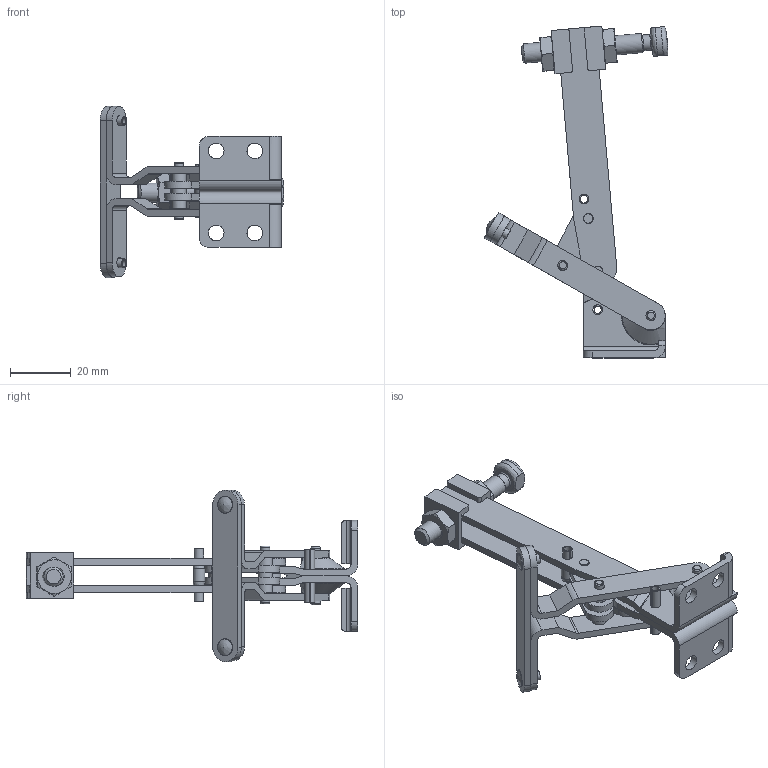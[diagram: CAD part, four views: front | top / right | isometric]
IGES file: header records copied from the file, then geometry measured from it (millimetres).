
Global section: file name: T-100 Open; native system: Autodesk RealDWG; preprocessor: Autodesk Translation Framework DWG producer (atf_dwg_producer); author: rtaylor; organization: unknown; date: 20151006.123417; units: inch
Bounding box: 60.43 x 109.15 x 56.38 mm (x, y, z)
Volume: 19231 mm3; surface area: 21994.7 mm2
Topology: 22 solids, 22 shells, 337 faces, 824 edges, 545 vertices
Faces by surface type: bspline 337
